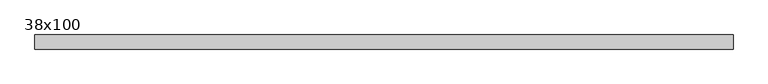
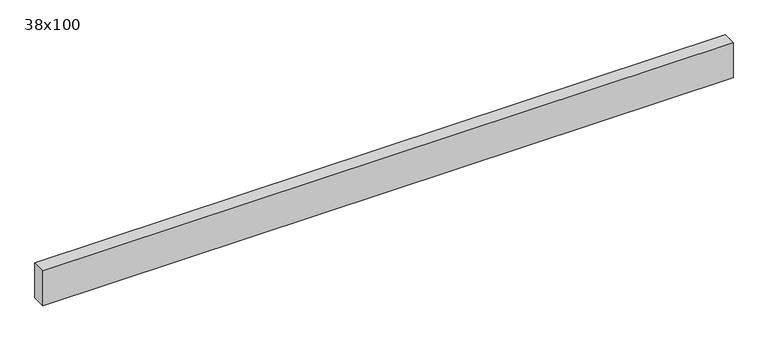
"""IFC4 building model written with IfcOpenShell, lengths in millimetres: beam geometry, Poutre - Bois de construction de dimensions courantes : 38x100."""

import ifcopenshell
import ifcopenshell.guid

model = None  # the IFC model being written
_history = None  # IfcOwnerHistory: only IFC2X3 demands one
_inside = {}  # id of a spatial element -> (the spatial element, [elements in it])
_under = {}  # id of a project, library or spatial element -> (it, [spatial elements below it])
_declared = {}  # id of a project -> (the project, [libraries it declares])
_typed = {}  # id of a type object -> (the type object, [elements of that type])
_made_of = {}  # id of a material, layer set ... -> (it, [elements and type objects made of it])


def new_model(schema):
    """Start an empty IFC model of exactly this schema.

    Asked for "IFC4X3", IfcOpenShell would pick the latest addendum, in which some entities
    have other attributes; the version numbers below select the first issue.
    IFC2X3 requires an IfcOwnerHistory on every rooted entity: one is made here for all.
    """
    global model, _history
    if schema == "IFC4X3":
        model = ifcopenshell.file(schema_version=(4, 3, 0, 0))
    else:
        model = ifcopenshell.file(schema=schema)
    _inside.clear()
    _under.clear()
    _declared.clear()
    _typed.clear()
    _made_of.clear()
    _history = None
    if model.schema == "IFC2X3":
        org = make("IfcOrganization", Name="unknown")
        user = make(
            "IfcPersonAndOrganization",
            ThePerson=make("IfcPerson", FamilyName="unknown"),
            TheOrganization=org,
        )
        app = make(
            "IfcApplication",
            ApplicationDeveloper=org,
            Version="unknown",
            ApplicationFullName="unknown",
            ApplicationIdentifier="unknown",
        )
        _history = make(
            "IfcOwnerHistory",
            OwningUser=user,
            OwningApplication=app,
            ChangeAction="ADDED",
            CreationDate=0,
        )
    return model


def make(cls, **values):
    """One entity of the class cls with the attributes given. An attribute that is None is left unset."""
    return model.create_entity(
        cls, **{name: value for name, value in values.items() if value is not None}
    )


def rooted(cls, **values):
    """An entity with a GlobalId (a new one), such as an element, a storey or a relation."""
    return make(cls, GlobalId=ifcopenshell.guid.new(), OwnerHistory=_history, **values)


def si_unit(unit_type, name, prefix=None):
    """IfcSIUnit, for example si_unit("LENGTHUNIT", "METRE", prefix="MILLI")."""
    return make("IfcSIUnit", UnitType=unit_type, Prefix=prefix, Name=name)


def assignment(units):
    """IfcUnitAssignment: the units of a project."""
    return None if units is None else make("IfcUnitAssignment", Units=units)


def point(xyz):
    """IfcCartesianPoint."""
    return None if xyz is None else make("IfcCartesianPoint", Coordinates=xyz)


def direction(xyz):
    """IfcDirection."""
    return None if xyz is None else make("IfcDirection", DirectionRatios=xyz)


def frame(location, z_axis=None, x_axis=None):
    """IfcAxis2Placement3D, a coordinate frame: its origin and axes. An axis left out is left unset."""
    return make(
        "IfcAxis2Placement3D",
        Location=point(location),
        Axis=direction(z_axis),
        RefDirection=direction(x_axis),
    )


def origin():
    """The frame at (0, 0, 0) with its axes left unset."""
    return frame((0.0, 0.0, 0.0))


def place(relative_to, where):
    """IfcLocalPlacement: puts the frame where relative to a parent placement (None: the world)."""
    return make(
        "IfcLocalPlacement", PlacementRelTo=relative_to, RelativePlacement=where
    )


def context(
    kind, dimensions, precision=None, world=None, true_north=None, identifier=None
):
    """IfcGeometricRepresentationContext, for example the 3D "Model" context."""
    return make(
        "IfcGeometricRepresentationContext",
        ContextIdentifier=identifier,
        ContextType=kind,
        CoordinateSpaceDimension=dimensions,
        Precision=precision,
        WorldCoordinateSystem=world,
        TrueNorth=true_north,
    )


def project(units=None, contexts=None):
    """IfcProject with its units and contexts."""
    return rooted(
        "IfcProject",
        Name="project",
        RepresentationContexts=contexts,
        UnitsInContext=assignment(units),
    )


def spatial(cls, under=None, at=None, **own):
    """A site, building, storey or space (cls), placed at a placement, below another one or the project."""
    s = rooted(cls, ObjectPlacement=at, **own)
    if under is not None:
        _under.setdefault(under.id(), (under, []))[1].append(s)
    return s


def polyline(points):
    """IfcPolyline through the points."""
    return make("IfcPolyline", Points=[point(p) for p in points])


def outline(outer, holes=None, kind="AREA"):
    """IfcArbitraryClosedProfileDef: a profile drawn as a closed curve; with holes, ...WithVoids."""
    if holes is None:
        return make("IfcArbitraryClosedProfileDef", ProfileType=kind, OuterCurve=outer)
    return make(
        "IfcArbitraryProfileDefWithVoids",
        ProfileType=kind,
        OuterCurve=outer,
        InnerCurves=holes,
    )


def extrude(swept, where, along, depth):
    """IfcExtrudedAreaSolid: the profile swept, set in the frame where, extruded along a direction by depth."""
    return make(
        "IfcExtrudedAreaSolid",
        SweptArea=swept,
        Position=where,
        ExtrudedDirection=direction(along),
        Depth=depth,
    )


def shape(context_of_items, identifier, shape_type, items):
    """IfcShapeRepresentation: the items that make up one representation, for example the "Body"."""
    return make(
        "IfcShapeRepresentation",
        ContextOfItems=context_of_items,
        RepresentationIdentifier=identifier,
        RepresentationType=shape_type,
        Items=items,
    )


def source(mapping_origin, context_of_items, identifier, shape_type, items):
    """IfcRepresentationMap: a shape defined once, which mapped items show again and again."""
    return make(
        "IfcRepresentationMap",
        MappingOrigin=mapping_origin,
        MappedRepresentation=shape(context_of_items, identifier, shape_type, items),
    )


def transform(
    local_origin,
    x_axis=None,
    y_axis=None,
    z_axis=None,
    scale=None,
    scale2=None,
    scale3=None,
    uniform=True,
):
    """IfcCartesianTransformationOperator3D, or its non-uniform kind. x_axis, y_axis, z_axis: its Axis1, 2, 3."""
    if uniform:
        return make(
            "IfcCartesianTransformationOperator3D",
            Axis1=direction(x_axis),
            Axis2=direction(y_axis),
            LocalOrigin=point(local_origin),
            Scale=scale,
            Axis3=direction(z_axis),
        )
    return make(
        "IfcCartesianTransformationOperator3DnonUniform",
        Axis1=direction(x_axis),
        Axis2=direction(y_axis),
        LocalOrigin=point(local_origin),
        Scale=scale,
        Axis3=direction(z_axis),
        Scale2=scale2,
        Scale3=scale3,
    )


def mapped(mapping_source, mapping_target):
    """IfcMappedItem: shows the shape of a source again, moved by a transform."""
    return make(
        "IfcMappedItem", MappingSource=mapping_source, MappingTarget=mapping_target
    )


def made_of(thing, what):
    """Note that an element or type object is made of a material, layer set ...; save() writes the relation."""
    if what is not None:
        _made_of.setdefault(what.id(), (what, []))[1].append(thing)
    return thing


def element(
    cls,
    number,
    at=None,
    inside=None,
    cuts=None,
    type_object=None,
    material=None,
    context=None,
    identifier="Body",
    shape_type=None,
    held_by="IfcProductDefinitionShape",
    body=None,
    shapes=None,
    **own,
):
    """One element of the class cls, such as IfcWall. Its Tag is "e" and its number.

    at: its placement. inside: the storey or other place that contains it. cuts: it is an
    opening in that element (IfcRelVoidsElement). A single representation is given by context,
    identifier, shape_type and body (its items); several are given by shapes. held_by: the class
    of the entity that holds the representations. save() writes the other relations.
    """
    e = rooted(cls, Tag="e%d" % number, ObjectPlacement=at, **own)
    if body is not None:
        shapes = [shape(context, identifier, shape_type, body)]
    if shapes is not None:
        e.Representation = make(held_by, Representations=shapes)
    if inside is not None:
        _inside.setdefault(inside.id(), (inside, []))[1].append(e)
    if cuts is not None:
        rooted(
            "IfcRelVoidsElement", RelatingBuildingElement=cuts, RelatedOpeningElement=e
        )
    if type_object is not None:
        _typed.setdefault(type_object.id(), (type_object, []))[1].append(e)
    return made_of(e, material)


def aggregate(whole, parts):
    """IfcRelAggregates: a whole, such as a stair, and the parts it consists of."""
    return rooted("IfcRelAggregates", RelatingObject=whole, RelatedObjects=parts)


def save(model, path):
    """Write the relations noted so far, then the file.

    IfcRelAggregates (storeys below a building ...), IfcRelContainedInSpatialStructure (elements
    in a storey), IfcRelDefinesByType, IfcRelAssociatesMaterial and IfcRelDeclares: one each for
    every whole, place, type object, material and project.
    """
    for whole, parts in _under.values():
        aggregate(whole, parts)
    for where, things in _inside.values():
        rooted(
            "IfcRelContainedInSpatialStructure",
            RelatedElements=things,
            RelatingStructure=where,
        )
    for kind, things in _typed.values():
        rooted("IfcRelDefinesByType", RelatedObjects=things, RelatingType=kind)
    for what, things in _made_of.values():
        rooted("IfcRelAssociatesMaterial", RelatedObjects=things, RelatingMaterial=what)
    for by, libraries in _declared.values():
        rooted("IfcRelDeclares", RelatingContext=by, RelatedDefinitions=libraries)
    model.write(path)


def beam_38x100_8b8119d9(model_context):
    return source(origin(), model_context, "Body", "SweptSolid", [
        extrude(outline(polyline([(917.0, 19.05), (917.0, -19.05), (-961.0, -19.05), (-961.0, 19.05), (917.0, 19.05)])), frame((0.0, 0.0, -50.0), z_axis=(0.0, 0.0, 1.0), x_axis=(1.0, 0.0, 0.0)), (0.0, 0.0, 1.0), 100.0),
    ])


if __name__ == "__main__":
    model = new_model("IFC4")
    model_context = context("Model", 3, world=origin())
    ifc_project = project(units=[si_unit("LENGTHUNIT", "METRE", prefix="MILLI")], contexts=[model_context])
    site = spatial("IfcSite", under=ifc_project)
    building = spatial("IfcBuilding", under=site)
    placement = place(None, origin())
    beam_38x100_shape = beam_38x100_8b8119d9(model_context)
    element("IfcBeam", 1, ObjectType="Poutre - Bois de construction de dimensions courantes : 38x100", at=placement, inside=building, context=model_context, shape_type="MappedRepresentation", body=[
        mapped(beam_38x100_shape, transform((0.0, 0.0, 0.0), x_axis=(1.0, 0.0, 0.0), y_axis=(0.0, 1.0, 0.0), z_axis=(0.0, 0.0, 1.0))),
    ])
    save(model, "model.ifc")
